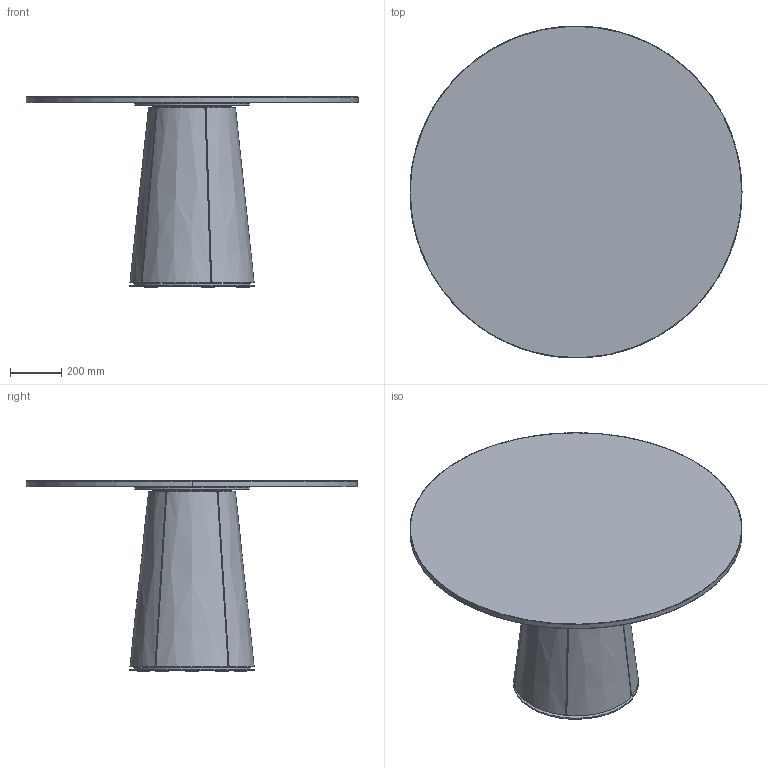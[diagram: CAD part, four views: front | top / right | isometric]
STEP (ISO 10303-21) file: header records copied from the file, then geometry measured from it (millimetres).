
FILE_DESCRIPTION(/* description */ (''),/* implementation_level */ '2;1');
FILE_NAME(/* name */ '20190222_BENT_dining table_130',/* time_stamp */ '2019-02-22T11:10:31+01:00',/* author */ (''),/* organization */ (''),/* preprocessor_version */ 'ST-DEVELOPER v15',/* originating_system */ '',/* authorisation */ '');
FILE_SCHEMA (('AUTOMOTIVE_DESIGN'));
Length unit declared in the file: millimetre
Products named in the file (1): Document
Bounding box: 1300 x 1299.41 x 744 mm (x, y, z)
Volume: 56624177.9 mm3; surface area: 6513971.5 mm2
Topology: 27 solids, 27 shells, 212 faces, 445 edges, 297 vertices
Faces by surface type: bspline 113, plane 99
Entity records: 8380 total; most frequent: CARTESIAN_POINT 5422, ORIENTED_EDGE 890, EDGE_CURVE 445, VERTEX_POINT 297, EDGE_LOOP 232, B_SPLINE_CURVE_WITH_KNOTS 230, ADVANCED_FACE 212, FACE_OUTER_BOUND 212
